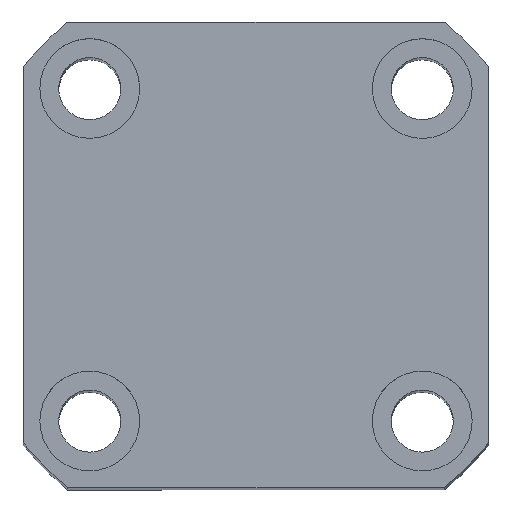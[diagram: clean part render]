
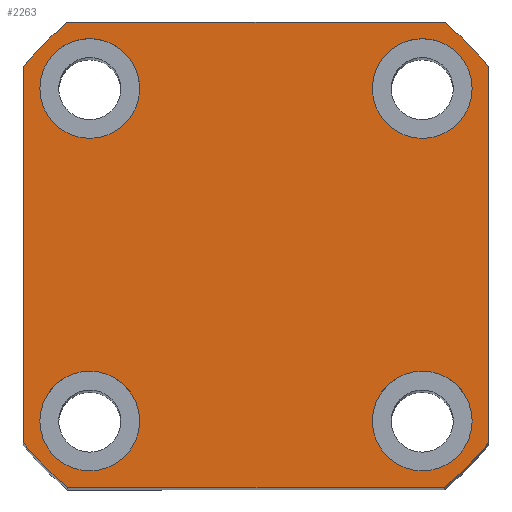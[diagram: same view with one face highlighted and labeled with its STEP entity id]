
A CAD part, top view. The second image highlights one B-rep face of the part: STEP entity #2263.
In plain terms, the highlighted planar face has unit normal (0, 0, 1).
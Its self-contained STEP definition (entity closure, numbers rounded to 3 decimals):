
#130 = AXIS2_PLACEMENT_3D ( 'NONE', #11778, #5355, #12848 ) ;
#156 = DIRECTION ( 'NONE',  ( 0., 0., 1. ) ) ;
#234 = CARTESIAN_POINT ( 'NONE',  ( -15., 15.002, 128. ) ) ;
#249 = CARTESIAN_POINT ( 'NONE',  ( 0., 0., 128. ) ) ;
#385 = ORIENTED_EDGE ( 'NONE', *, *, #13617, .T. ) ;
#402 = VECTOR ( 'NONE', #7617, 1000. ) ;
#548 = VERTEX_POINT ( 'NONE', #6495 ) ;
#565 = VERTEX_POINT ( 'NONE', #4908 ) ;
#616 = CARTESIAN_POINT ( 'NONE',  ( 19.5, 15., 128. ) ) ;
#762 = CIRCLE ( 'NONE', #12630, 4.5 ) ;
#797 = CARTESIAN_POINT ( 'NONE',  ( 21., -16.971, 128. ) ) ;
#819 = VERTEX_POINT ( 'NONE', #10478 ) ;
#893 = CARTESIAN_POINT ( 'NONE',  ( -10.5, 15.002, 128. ) ) ;
#1050 = CIRCLE ( 'NONE', #6610, 27. ) ;
#1289 = DIRECTION ( 'NONE',  ( 1., 0., 0. ) ) ;
#1303 = DIRECTION ( 'NONE',  ( 1., 0., 0. ) ) ;
#1365 = ORIENTED_EDGE ( 'NONE', *, *, #1996, .F. ) ;
#1379 = ORIENTED_EDGE ( 'NONE', *, *, #12212, .F. ) ;
#1447 = DIRECTION ( 'NONE',  ( 0., 0., 1. ) ) ;
#1551 = ORIENTED_EDGE ( 'NONE', *, *, #5541, .F. ) ;
#1563 = DIRECTION ( 'NONE',  ( 0., 0., 1. ) ) ;
#1996 = EDGE_CURVE ( 'NONE', #6041, #5509, #11843, .T. ) ;
#2072 = AXIS2_PLACEMENT_3D ( 'NONE', #12608, #6176, #13672 ) ;
#2145 = EDGE_CURVE ( 'NONE', #5223, #11773, #11194, .T. ) ;
#2211 = EDGE_LOOP ( 'NONE', ( #13630, #10297 ) ) ;
#2222 = DIRECTION ( 'NONE',  ( 0., 0., 1. ) ) ;
#2257 = FACE_BOUND ( 'NONE', #2211, .T. ) ;
#2263 = ADVANCED_FACE ( 'NONE', ( #8299, #2257, #2948, #13344, #10498 ), #12129, .T. ) ;
#2722 = CARTESIAN_POINT ( 'NONE',  ( -10.5, -14.998, 128. ) ) ;
#2743 = CARTESIAN_POINT ( 'NONE',  ( 0., 0., 128. ) ) ;
#2744 = ORIENTED_EDGE ( 'NONE', *, *, #3793, .T. ) ;
#2766 = DIRECTION ( 'NONE',  ( 0., 0., 1. ) ) ;
#2861 = AXIS2_PLACEMENT_3D ( 'NONE', #4649, #1447, #8963 ) ;
#2948 = FACE_BOUND ( 'NONE', #6373, .T. ) ;
#2992 = VERTEX_POINT ( 'NONE', #3514 ) ;
#3049 = ORIENTED_EDGE ( 'NONE', *, *, #3554, .F. ) ;
#3193 = VERTEX_POINT ( 'NONE', #616 ) ;
#3203 = EDGE_CURVE ( 'NONE', #548, #7341, #4789, .T. ) ;
#3448 = DIRECTION ( 'NONE',  ( 0., -1., 0. ) ) ;
#3514 = CARTESIAN_POINT ( 'NONE',  ( -16.971, -21., 128. ) ) ;
#3554 = EDGE_CURVE ( 'NONE', #7341, #548, #5609, .T. ) ;
#3793 = EDGE_CURVE ( 'NONE', #11773, #4169, #7119, .T. ) ;
#3821 = DIRECTION ( 'NONE',  ( 1., 0., 0. ) ) ;
#3861 = DIRECTION ( 'NONE',  ( 0., 0., 1. ) ) ;
#3866 = VERTEX_POINT ( 'NONE', #4492 ) ;
#4169 = VERTEX_POINT ( 'NONE', #13490 ) ;
#4182 = CARTESIAN_POINT ( 'NONE',  ( 15., -14.998, 128. ) ) ;
#4391 = CIRCLE ( 'NONE', #11855, 4.5 ) ;
#4492 = CARTESIAN_POINT ( 'NONE',  ( -21., 16.971, 128. ) ) ;
#4649 = CARTESIAN_POINT ( 'NONE',  ( 0., 0., 128. ) ) ;
#4709 = DIRECTION ( 'NONE',  ( 0., 0., 1. ) ) ;
#4714 = AXIS2_PLACEMENT_3D ( 'NONE', #10288, #3861, #11380 ) ;
#4731 = EDGE_CURVE ( 'NONE', #565, #6024, #12708, .T. ) ;
#4789 = CIRCLE ( 'NONE', #4714, 4.5 ) ;
#4908 = CARTESIAN_POINT ( 'NONE',  ( -19.5, -14.998, 128. ) ) ;
#5090 = CIRCLE ( 'NONE', #130, 4.5 ) ;
#5195 = VERTEX_POINT ( 'NONE', #9394 ) ;
#5223 = VERTEX_POINT ( 'NONE', #11690 ) ;
#5242 = ORIENTED_EDGE ( 'NONE', *, *, #9877, .T. ) ;
#5266 = DIRECTION ( 'NONE',  ( 1., 0., 0. ) ) ;
#5355 = DIRECTION ( 'NONE',  ( 0., 0., 1. ) ) ;
#5509 = VERTEX_POINT ( 'NONE', #5692 ) ;
#5541 = EDGE_CURVE ( 'NONE', #3193, #8825, #13688, .T. ) ;
#5597 = EDGE_LOOP ( 'NONE', ( #1551, #7933 ) ) ;
#5609 = CIRCLE ( 'NONE', #5885, 4.5 ) ;
#5692 = CARTESIAN_POINT ( 'NONE',  ( 19.5, -14.998, 128. ) ) ;
#5885 = AXIS2_PLACEMENT_3D ( 'NONE', #234, #7727, #1289 ) ;
#6024 = VERTEX_POINT ( 'NONE', #2722 ) ;
#6041 = VERTEX_POINT ( 'NONE', #10231 ) ;
#6176 = DIRECTION ( 'NONE',  ( 0., 0., 1. ) ) ;
#6239 = ORIENTED_EDGE ( 'NONE', *, *, #3203, .F. ) ;
#6241 = EDGE_CURVE ( 'NONE', #6024, #565, #762, .T. ) ;
#6373 = EDGE_LOOP ( 'NONE', ( #1379, #1365 ) ) ;
#6495 = CARTESIAN_POINT ( 'NONE',  ( -19.5, 15.002, 128. ) ) ;
#6549 = CARTESIAN_POINT ( 'NONE',  ( 21., 21., 128. ) ) ;
#6579 = CARTESIAN_POINT ( 'NONE',  ( -15., -14.998, 128. ) ) ;
#6610 = AXIS2_PLACEMENT_3D ( 'NONE', #2743, #10253, #3821 ) ;
#6949 = VECTOR ( 'NONE', #9072, 1000. ) ;
#7119 = LINE ( 'NONE', #6549, #402 ) ;
#7149 = CARTESIAN_POINT ( 'NONE',  ( -21., 21., 128. ) ) ;
#7341 = VERTEX_POINT ( 'NONE', #893 ) ;
#7617 = DIRECTION ( 'NONE',  ( 0., 1., 0. ) ) ;
#7646 = DIRECTION ( 'NONE',  ( 1., 0., 0. ) ) ;
#7727 = DIRECTION ( 'NONE',  ( 0., 0., 1. ) ) ;
#7739 = DIRECTION ( 'NONE',  ( 0., 0., 1. ) ) ;
#7933 = ORIENTED_EDGE ( 'NONE', *, *, #8843, .F. ) ;
#7994 = CARTESIAN_POINT ( 'NONE',  ( 15., -14.998, 128. ) ) ;
#7996 = CARTESIAN_POINT ( 'NONE',  ( -21., -21., 128. ) ) ;
#8223 = DIRECTION ( 'NONE',  ( -1., 0., 0. ) ) ;
#8299 = FACE_BOUND ( 'NONE', #11483, .T. ) ;
#8377 = EDGE_CURVE ( 'NONE', #3866, #819, #10306, .T. ) ;
#8435 = ORIENTED_EDGE ( 'NONE', *, *, #8990, .T. ) ;
#8633 = CARTESIAN_POINT ( 'NONE',  ( -15., -14.998, 128. ) ) ;
#8825 = VERTEX_POINT ( 'NONE', #13865 ) ;
#8843 = EDGE_CURVE ( 'NONE', #8825, #3193, #5090, .T. ) ;
#8947 = EDGE_CURVE ( 'NONE', #2992, #5223, #12632, .T. ) ;
#8963 = DIRECTION ( 'NONE',  ( 1., 0., 0. ) ) ;
#8990 = EDGE_CURVE ( 'NONE', #819, #2992, #1050, .T. ) ;
#9070 = DIRECTION ( 'NONE',  ( 1., 0., 0. ) ) ;
#9072 = DIRECTION ( 'NONE',  ( 1., 0., 0. ) ) ;
#9189 = CARTESIAN_POINT ( 'NONE',  ( 0., 0., 128. ) ) ;
#9394 = CARTESIAN_POINT ( 'NONE',  ( -16.971, 21., 128. ) ) ;
#9537 = EDGE_LOOP ( 'NONE', ( #2744, #5242, #385, #10971, #11560, #8435, #12002, #13816 ) ) ;
#9738 = DIRECTION ( 'NONE',  ( 1., 0., 0. ) ) ;
#9877 = EDGE_CURVE ( 'NONE', #4169, #12331, #13159, .T. ) ;
#9886 = CARTESIAN_POINT ( 'NONE',  ( -21., 21., 128. ) ) ;
#9981 = VECTOR ( 'NONE', #3448, 1000. ) ;
#10231 = CARTESIAN_POINT ( 'NONE',  ( 10.5, -14.998, 128. ) ) ;
#10253 = DIRECTION ( 'NONE',  ( 0., 0., 1. ) ) ;
#10278 = DIRECTION ( 'NONE',  ( 1., 0., 0. ) ) ;
#10288 = CARTESIAN_POINT ( 'NONE',  ( -15., 15.002, 128. ) ) ;
#10297 = ORIENTED_EDGE ( 'NONE', *, *, #4731, .F. ) ;
#10306 = LINE ( 'NONE', #9886, #9981 ) ;
#10330 = AXIS2_PLACEMENT_3D ( 'NONE', #249, #7739, #1303 ) ;
#10339 = CARTESIAN_POINT ( 'NONE',  ( 16.971, 21., 128. ) ) ;
#10396 = AXIS2_PLACEMENT_3D ( 'NONE', #9189, #2766, #10278 ) ;
#10478 = CARTESIAN_POINT ( 'NONE',  ( -21., -16.971, 128. ) ) ;
#10498 = FACE_OUTER_BOUND ( 'NONE', #9537, .T. ) ;
#10575 = LINE ( 'NONE', #7149, #12752 ) ;
#10971 = ORIENTED_EDGE ( 'NONE', *, *, #13087, .T. ) ;
#11159 = CARTESIAN_POINT ( 'NONE',  ( 15., 15., 128. ) ) ;
#11194 = CIRCLE ( 'NONE', #10330, 27. ) ;
#11380 = DIRECTION ( 'NONE',  ( 1., 0., 0. ) ) ;
#11483 = EDGE_LOOP ( 'NONE', ( #3049, #6239 ) ) ;
#11560 = ORIENTED_EDGE ( 'NONE', *, *, #8377, .T. ) ;
#11684 = DIRECTION ( 'NONE',  ( 0., 0., 1. ) ) ;
#11690 = CARTESIAN_POINT ( 'NONE',  ( 16.971, -21., 128. ) ) ;
#11773 = VERTEX_POINT ( 'NONE', #797 ) ;
#11778 = CARTESIAN_POINT ( 'NONE',  ( 15., 15., 128. ) ) ;
#11843 = CIRCLE ( 'NONE', #13459, 4.5 ) ;
#11855 = AXIS2_PLACEMENT_3D ( 'NONE', #7994, #1563, #9070 ) ;
#12002 = ORIENTED_EDGE ( 'NONE', *, *, #8947, .T. ) ;
#12129 = PLANE ( 'NONE',  #2861 ) ;
#12212 = EDGE_CURVE ( 'NONE', #5509, #6041, #4391, .T. ) ;
#12232 = DIRECTION ( 'NONE',  ( 1., 0., 0. ) ) ;
#12331 = VERTEX_POINT ( 'NONE', #10339 ) ;
#12608 = CARTESIAN_POINT ( 'NONE',  ( 0., 0., 128. ) ) ;
#12630 = AXIS2_PLACEMENT_3D ( 'NONE', #6579, #156, #7646 ) ;
#12632 = LINE ( 'NONE', #7996, #6949 ) ;
#12708 = CIRCLE ( 'NONE', #13681, 4.5 ) ;
#12752 = VECTOR ( 'NONE', #8223, 1000. ) ;
#12848 = DIRECTION ( 'NONE',  ( 1., 0., 0. ) ) ;
#13087 = EDGE_CURVE ( 'NONE', #5195, #3866, #13272, .T. ) ;
#13159 = CIRCLE ( 'NONE', #10396, 27. ) ;
#13272 = CIRCLE ( 'NONE', #2072, 27. ) ;
#13344 = FACE_BOUND ( 'NONE', #5597, .T. ) ;
#13459 = AXIS2_PLACEMENT_3D ( 'NONE', #4182, #11684, #5266 ) ;
#13490 = CARTESIAN_POINT ( 'NONE',  ( 21., 16.971, 128. ) ) ;
#13617 = EDGE_CURVE ( 'NONE', #12331, #5195, #10575, .T. ) ;
#13630 = ORIENTED_EDGE ( 'NONE', *, *, #6241, .F. ) ;
#13672 = DIRECTION ( 'NONE',  ( 1., 0., 0. ) ) ;
#13681 = AXIS2_PLACEMENT_3D ( 'NONE', #8633, #2222, #9738 ) ;
#13688 = CIRCLE ( 'NONE', #13857, 4.5 ) ;
#13816 = ORIENTED_EDGE ( 'NONE', *, *, #2145, .T. ) ;
#13857 = AXIS2_PLACEMENT_3D ( 'NONE', #11159, #4709, #12232 ) ;
#13865 = CARTESIAN_POINT ( 'NONE',  ( 10.5, 15., 128. ) ) ;
